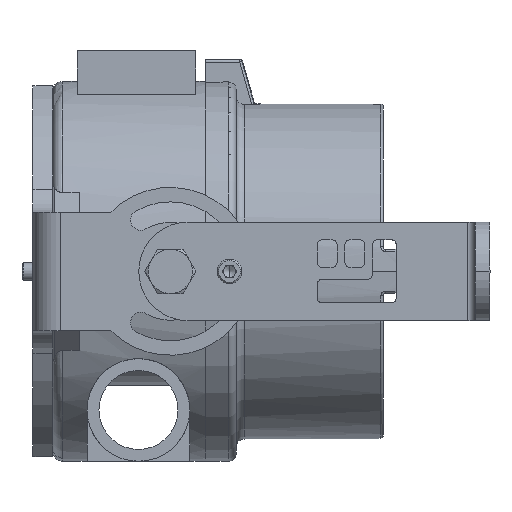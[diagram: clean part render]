
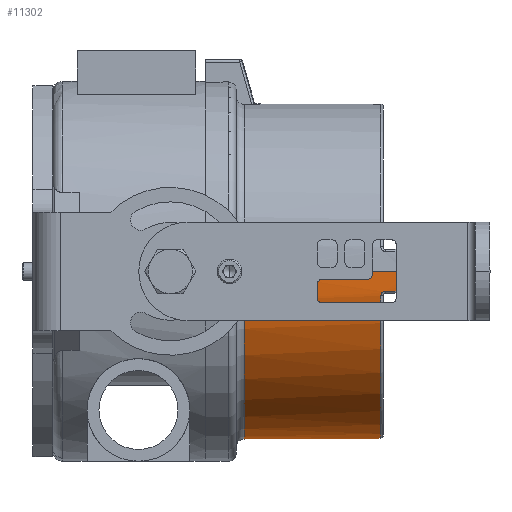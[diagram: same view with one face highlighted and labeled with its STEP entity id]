
A CAD part, left-side view. The second image highlights one B-rep face of the part: STEP entity #11302.
In plain terms, the highlighted cylindrical face has radius 53.975 mm (diameter 107.95 mm), a partial arc.
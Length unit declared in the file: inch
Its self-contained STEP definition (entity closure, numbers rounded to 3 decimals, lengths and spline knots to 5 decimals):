
#207 = CARTESIAN_POINT ( 'NONE',  ( -0.60621, -10.57828, -5.54084 ) ) ;
#540 = VECTOR ( 'NONE', #19137, 39.37008 ) ;
#716 = B_SPLINE_CURVE_WITH_KNOTS ( 'NONE', 3,
 ( #2728, #914, #4537, #17317, #6365, #19139, #8210, #20966, #10047, #22835, #11906, #996, #13727, #2817 ),
 .UNSPECIFIED., .F., .F.,
 ( 4, 2, 2, 2, 2, 2, 4 ),
 ( 0., 0.0006, 0.00121, 0.00151, 0.00181, 0.00212, 0.00242 ),
 .UNSPECIFIED. ) ;
#822 = DIRECTION ( 'NONE',  ( -1., 0., 0. ) ) ;
#914 = CARTESIAN_POINT ( 'NONE',  ( 3.60705, -12.79828, -5.59335 ) ) ;
#996 = CARTESIAN_POINT ( 'NONE',  ( 3.61391, -12.85036, -5.54124 ) ) ;
#1554 = CARTESIAN_POINT ( 'NONE',  ( 3.61396, -13.09828, -5.54084 ) ) ;
#1889 = CARTESIAN_POINT ( 'NONE',  ( -0.60621, -13.09828, -5.54084 ) ) ;
#2064 = CARTESIAN_POINT ( 'NONE',  ( -0.60527, -12.82787, -5.54859 ) ) ;
#2574 = ORIENTED_EDGE ( 'NONE', *, *, #16435, .T. ) ;
#2728 = CARTESIAN_POINT ( 'NONE',  ( 3.60588, -12.79828, -5.60125 ) ) ;
#2817 = CARTESIAN_POINT ( 'NONE',  ( 3.61396, -12.85828, -5.54084 ) ) ;
#2906 = CIRCLE ( 'NONE', #16338, 2.125 ) ;
#3133 = VERTEX_POINT ( 'NONE', #21689 ) ;
#3228 = VECTOR ( 'NONE', #12955, 39.37008 ) ;
#3287 = DIRECTION ( 'NONE',  ( 0., 1., 0. ) ) ;
#3636 = VERTEX_POINT ( 'NONE', #6853 ) ;
#3869 = CARTESIAN_POINT ( 'NONE',  ( -0.60364, -12.81291, -5.56153 ) ) ;
#4215 = VERTEX_POINT ( 'NONE', #16456 ) ;
#4220 = EDGE_CURVE ( 'NONE', #8234, #3133, #13227, .T. ) ;
#4259 = CARTESIAN_POINT ( 'NONE',  ( 3.60588, -12.79828, -5.60125 ) ) ;
#4537 = CARTESIAN_POINT ( 'NONE',  ( 3.60817, -12.79984, -5.58549 ) ) ;
#5136 = CARTESIAN_POINT ( 'NONE',  ( 3.61396, -10.57828, -5.54084 ) ) ;
#5632 = CARTESIAN_POINT ( 'NONE',  ( -0.60621, -12.85828, -5.54084 ) ) ;
#5717 = CARTESIAN_POINT ( 'NONE',  ( -0.60237, -12.80609, -5.57121 ) ) ;
#5916 = ORIENTED_EDGE ( 'NONE', *, *, #4220, .T. ) ;
#6364 = CARTESIAN_POINT ( 'NONE',  ( 3.62888, -10.57828, -5.28949 ) ) ;
#6365 = CARTESIAN_POINT ( 'NONE',  ( 3.61104, -12.81019, -5.5643 ) ) ;
#6478 = LINE ( 'NONE', #6364, #540 ) ;
#6558 = CARTESIAN_POINT ( 'NONE',  ( 1.50388, -11.06578, -5.28949 ) ) ;
#6853 = CARTESIAN_POINT ( 'NONE',  ( -0.62112, -11.06578, -5.28949 ) ) ;
#7472 = CARTESIAN_POINT ( 'NONE',  ( -0.60621, -12.85029, -5.54084 ) ) ;
#7475 = EDGE_CURVE ( 'NONE', #4215, #3636, #17110, .T. ) ;
#7511 = VERTEX_POINT ( 'NONE', #19841 ) ;
#7544 = CARTESIAN_POINT ( 'NONE',  ( -0.6009, -12.80129, -5.58195 ) ) ;
#7586 = ORIENTED_EDGE ( 'NONE', *, *, #11915, .T. ) ;
#7838 = VERTEX_POINT ( 'NONE', #11972 ) ;
#8199 = ORIENTED_EDGE ( 'NONE', *, *, #23143, .T. ) ;
#8210 = CARTESIAN_POINT ( 'NONE',  ( 3.61243, -12.82154, -5.55334 ) ) ;
#8234 = VERTEX_POINT ( 'NONE', #4259 ) ;
#8253 = VERTEX_POINT ( 'NONE', #9847 ) ;
#8395 = DIRECTION ( 'NONE',  ( -1., 0., 0. ) ) ;
#8721 = EDGE_CURVE ( 'NONE', #18769, #4215, #8775, .T. ) ;
#8765 = CARTESIAN_POINT ( 'NONE',  ( 1.50388, -12.79828, -5.28949 ) ) ;
#8775 = CIRCLE ( 'NONE', #9473, 2.125 ) ;
#9356 = DIRECTION ( 'NONE',  ( 0., 1., 0. ) ) ;
#9369 = VERTEX_POINT ( 'NONE', #1554 ) ;
#9399 = CARTESIAN_POINT ( 'NONE',  ( -0.59928, -12.79866, -5.59341 ) ) ;
#9473 = AXIS2_PLACEMENT_3D ( 'NONE', #20500, #9578, #22332 ) ;
#9578 = DIRECTION ( 'NONE',  ( 0., 1., 0. ) ) ;
#9847 = CARTESIAN_POINT ( 'NONE',  ( 3.62888, -11.06578, -5.28949 ) ) ;
#10047 = CARTESIAN_POINT ( 'NONE',  ( 3.61321, -12.83152, -5.54704 ) ) ;
#10594 = DIRECTION ( 'NONE',  ( -1., 0., 0. ) ) ;
#11225 = CARTESIAN_POINT ( 'NONE',  ( -0.59813, -12.79828, -5.60125 ) ) ;
#11302 = ADVANCED_FACE ( 'NONE', ( #23238 ), #13528, .T. ) ;
#11730 = CARTESIAN_POINT ( 'NONE',  ( 1.50388, -10.57828, -5.28949 ) ) ;
#11906 = CARTESIAN_POINT ( 'NONE',  ( 3.61373, -12.84264, -5.5428 ) ) ;
#11915 = EDGE_CURVE ( 'NONE', #19588, #18769, #17786, .T. ) ;
#11972 = CARTESIAN_POINT ( 'NONE',  ( 3.62888, -13.09828, -5.28949 ) ) ;
#12510 = EDGE_LOOP ( 'NONE', ( #20784, #21239, #8199, #16386, #5916, #15130, #7586, #14889, #13777, #2574 ) ) ;
#12955 = DIRECTION ( 'NONE',  ( 0., -1., 0. ) ) ;
#12993 = CARTESIAN_POINT ( 'NONE',  ( -0.60601, -12.84236, -5.54247 ) ) ;
#13057 = LINE ( 'NONE', #5136, #22770 ) ;
#13227 = CIRCLE ( 'NONE', #13447, 2.125 ) ;
#13447 = AXIS2_PLACEMENT_3D ( 'NONE', #8765, #21491, #10594 ) ;
#13528 = CYLINDRICAL_SURFACE ( 'NONE', #22015, 2.125 ) ;
#13727 = CARTESIAN_POINT ( 'NONE',  ( 3.61396, -12.85428, -5.54084 ) ) ;
#13777 = ORIENTED_EDGE ( 'NONE', *, *, #7475, .T. ) ;
#13839 = EDGE_CURVE ( 'NONE', #8234, #7511, #716, .T. ) ;
#14814 = CARTESIAN_POINT ( 'NONE',  ( -0.60471, -12.82118, -5.55314 ) ) ;
#14889 = ORIENTED_EDGE ( 'NONE', *, *, #8721, .T. ) ;
#15130 = ORIENTED_EDGE ( 'NONE', *, *, #22740, .F. ) ;
#15297 = DIRECTION ( 'NONE',  ( 0., 1., 0. ) ) ;
#15328 = EDGE_CURVE ( 'NONE', #7838, #8253, #6478, .T. ) ;
#16016 = CARTESIAN_POINT ( 'NONE',  ( -0.62112, -10.57828, -5.28949 ) ) ;
#16338 = AXIS2_PLACEMENT_3D ( 'NONE', #20258, #9356, #22076 ) ;
#16386 = ORIENTED_EDGE ( 'NONE', *, *, #13839, .F. ) ;
#16435 = EDGE_CURVE ( 'NONE', #3636, #8253, #18711, .T. ) ;
#16456 = CARTESIAN_POINT ( 'NONE',  ( -0.62112, -13.09828, -5.28949 ) ) ;
#16627 = CARTESIAN_POINT ( 'NONE',  ( -0.60324, -12.8104, -5.56465 ) ) ;
#17110 = LINE ( 'NONE', #16016, #21361 ) ;
#17317 = CARTESIAN_POINT ( 'NONE',  ( 3.61016, -12.80576, -5.57103 ) ) ;
#17786 = LINE ( 'NONE', #207, #3228 ) ;
#18479 = CARTESIAN_POINT ( 'NONE',  ( -0.6019, -12.80427, -5.57467 ) ) ;
#18711 = CIRCLE ( 'NONE', #22269, 2.125 ) ;
#18769 = VERTEX_POINT ( 'NONE', #1889 ) ;
#19137 = DIRECTION ( 'NONE',  ( 0., 1., 0. ) ) ;
#19139 = CARTESIAN_POINT ( 'NONE',  ( 3.61211, -12.81845, -5.55591 ) ) ;
#19285 = CARTESIAN_POINT ( 'NONE',  ( -0.60621, -12.85828, -5.54084 ) ) ;
#19333 = DIRECTION ( 'NONE',  ( 0., -1., 0. ) ) ;
#19588 = VERTEX_POINT ( 'NONE', #19285 ) ;
#19605 = B_SPLINE_CURVE_WITH_KNOTS ( 'NONE', 3,
 ( #5632, #7472, #12993, #2064, #14814, #3869, #16627, #5717, #18479, #7544, #20306, #9399, #22128, #11225 ),
 .UNSPECIFIED., .F., .F.,
 ( 4, 2, 2, 2, 2, 2, 4 ),
 ( 0., 0.0006, 0.00121, 0.00151, 0.00181, 0.00212, 0.00242 ),
 .UNSPECIFIED. ) ;
#19734 = DIRECTION ( 'NONE',  ( 0., 1., 0. ) ) ;
#19841 = CARTESIAN_POINT ( 'NONE',  ( 3.61396, -12.85828, -5.54084 ) ) ;
#20258 = CARTESIAN_POINT ( 'NONE',  ( 1.50388, -13.09828, -5.28949 ) ) ;
#20306 = CARTESIAN_POINT ( 'NONE',  ( -0.60037, -12.80016, -5.58576 ) ) ;
#20492 = EDGE_CURVE ( 'NONE', #7838, #9369, #2906, .T. ) ;
#20500 = CARTESIAN_POINT ( 'NONE',  ( 1.50388, -13.09828, -5.28949 ) ) ;
#20784 = ORIENTED_EDGE ( 'NONE', *, *, #15328, .F. ) ;
#20966 = CARTESIAN_POINT ( 'NONE',  ( 3.61298, -12.82806, -5.54892 ) ) ;
#21239 = ORIENTED_EDGE ( 'NONE', *, *, #20492, .T. ) ;
#21361 = VECTOR ( 'NONE', #3287, 39.37008 ) ;
#21491 = DIRECTION ( 'NONE',  ( 0., 1., 0. ) ) ;
#21689 = CARTESIAN_POINT ( 'NONE',  ( -0.59813, -12.79828, -5.60125 ) ) ;
#22015 = AXIS2_PLACEMENT_3D ( 'NONE', #11730, #15297, #822 ) ;
#22076 = DIRECTION ( 'NONE',  ( 1., 0., 0. ) ) ;
#22128 = CARTESIAN_POINT ( 'NONE',  ( -0.59871, -12.79828, -5.5973 ) ) ;
#22269 = AXIS2_PLACEMENT_3D ( 'NONE', #6558, #19333, #8395 ) ;
#22332 = DIRECTION ( 'NONE',  ( 1., 0., 0. ) ) ;
#22740 = EDGE_CURVE ( 'NONE', #19588, #3133, #19605, .T. ) ;
#22770 = VECTOR ( 'NONE', #19734, 39.37008 ) ;
#22835 = CARTESIAN_POINT ( 'NONE',  ( 3.61358, -12.83881, -5.54397 ) ) ;
#23143 = EDGE_CURVE ( 'NONE', #9369, #7511, #13057, .T. ) ;
#23238 = FACE_OUTER_BOUND ( 'NONE', #12510, .T. ) ;
